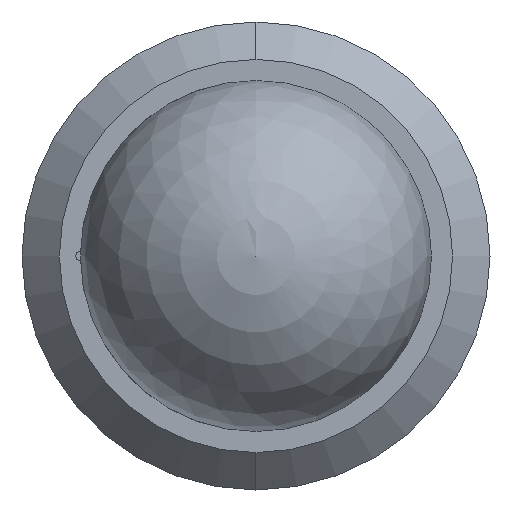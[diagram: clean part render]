
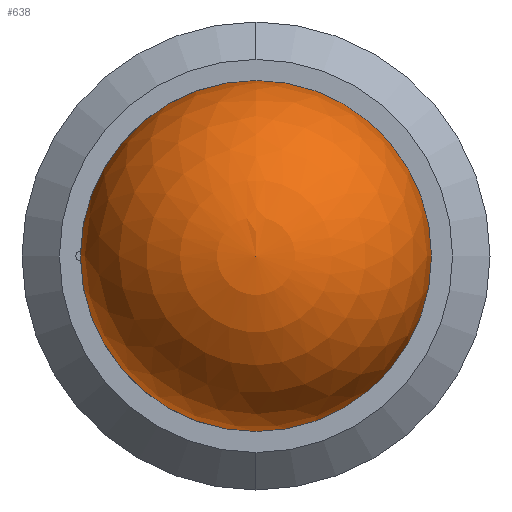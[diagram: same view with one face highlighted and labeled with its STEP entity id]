
A CAD part, left-side view. The second image highlights one B-rep face of the part: STEP entity #638.
In plain terms, the highlighted spherical face has radius 2.381 mm.
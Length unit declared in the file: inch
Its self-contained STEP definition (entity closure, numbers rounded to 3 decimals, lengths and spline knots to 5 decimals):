
#80 = DIRECTION ( 'NONE',  ( 0., 0., 1. ) ) ;
#83 = DIRECTION ( 'NONE',  ( 1., 0., 0. ) ) ;
#90 = ORIENTED_EDGE ( 'NONE', *, *, #652, .F. ) ;
#138 = CARTESIAN_POINT ( 'NONE',  ( 0., 0., 0. ) ) ;
#238 = AXIS2_PLACEMENT_3D ( 'NONE', #138, #619, #330 ) ;
#271 = DIRECTION ( 'NONE',  ( -1., 0., 0. ) ) ;
#276 = AXIS2_PLACEMENT_3D ( 'NONE', #433, #271, #80 ) ;
#297 = FACE_OUTER_BOUND ( 'NONE', #541, .T. ) ;
#330 = DIRECTION ( 'NONE',  ( 0., 0., 1. ) ) ;
#379 = SPHERICAL_SURFACE ( 'NONE', #276, 0.09375 ) ;
#433 = CARTESIAN_POINT ( 'NONE',  ( 0., 0., 0. ) ) ;
#435 = CARTESIAN_POINT ( 'NONE',  ( 0., 0., 0. ) ) ;
#460 = VERTEX_POINT ( 'NONE', #629 ) ;
#492 = AXIS2_PLACEMENT_3D ( 'NONE', #435, #83, #493 ) ;
#493 = DIRECTION ( 'NONE',  ( 0., 0., -1. ) ) ;
#521 = EDGE_CURVE ( 'NONE', #705, #460, #727, .T. ) ;
#541 = EDGE_LOOP ( 'NONE', ( #90, #575 ) ) ;
#575 = ORIENTED_EDGE ( 'NONE', *, *, #521, .T. ) ;
#589 = CIRCLE ( 'NONE', #492, 0.09375 ) ;
#619 = DIRECTION ( 'NONE',  ( -1., 0., 0. ) ) ;
#629 = CARTESIAN_POINT ( 'NONE',  ( 0., -0.09375, 0. ) ) ;
#638 = ADVANCED_FACE ( 'NONE', ( #297 ), #379, .T. ) ;
#652 = EDGE_CURVE ( 'NONE', #705, #460, #589, .T. ) ;
#682 = CARTESIAN_POINT ( 'NONE',  ( 0., 0.09375, 0. ) ) ;
#705 = VERTEX_POINT ( 'NONE', #682 ) ;
#727 = CIRCLE ( 'NONE', #238, 0.09375 ) ;
